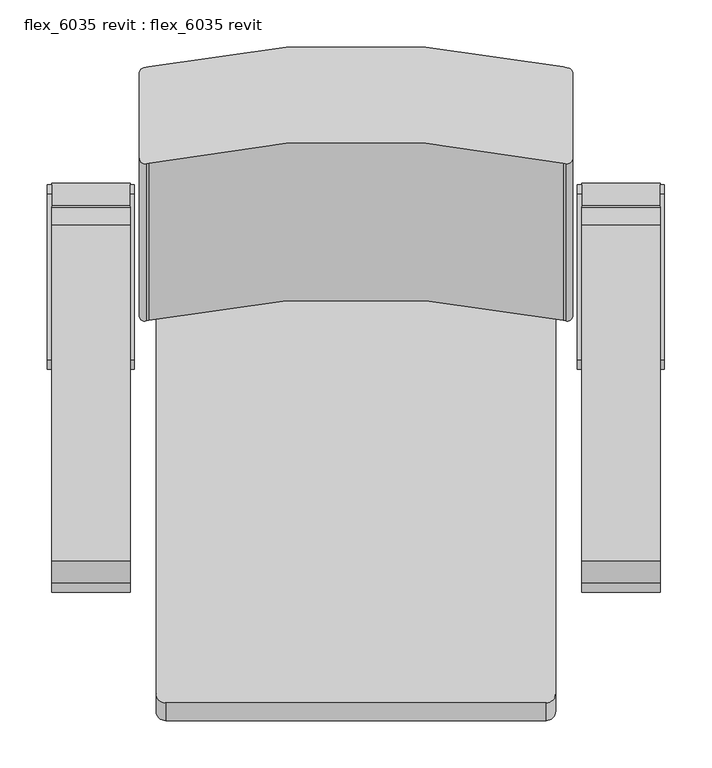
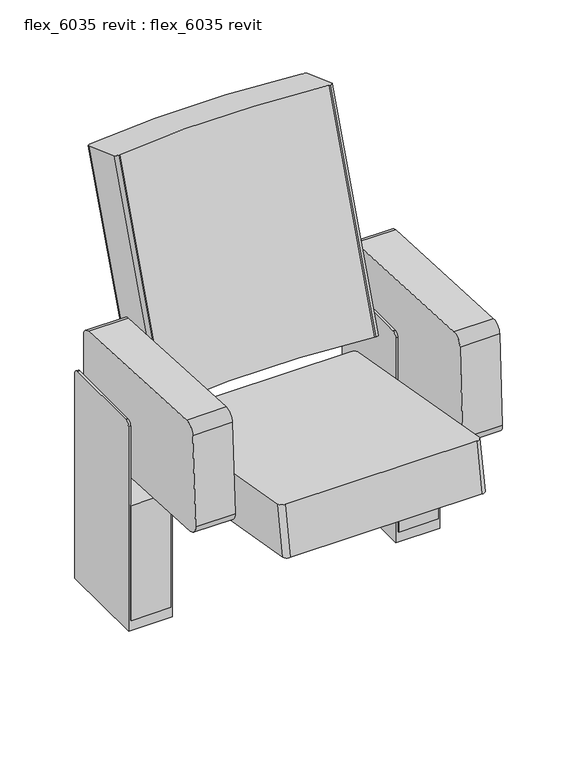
"""IFC4 building model written with IfcOpenShell, lengths in millimetres: furniture geometry, flex_6035 revit : flex_6035 revit."""

from ifc_helpers import new_model, si_unit, point, frame, frame_2d, origin, place, context, project, spatial, polyline, circle_curve, trimmed, segment, composite_curve, outline, extrude, source, transform, mapped, element, save
from ifc_brep_helpers import plane_surface, cylinder_surface, advanced_brep


def flex_6035_revit_flex_6035_revit_dbd431f0(model_context):
    return source(origin(), model_context, "Body", "SolidModel", [
        extrude(outline(polyline([(-238.5, -2.5), (-321.5, -2.5), (-321.5, 196.5), (-238.5, 196.5), (-238.5, -2.5)])), frame((0.0, 0.0, 24.0), z_axis=(0.0, 0.0, 1.0), x_axis=(1.0, 0.0, 0.0)), (0.0, 0.0, 1.0), 255.0),
        extrude(outline(polyline([(321.5, -2.5), (238.5, -2.5), (238.5, 196.5), (321.5, 196.5), (321.5, -2.5)])), frame((0.0, 0.0, 24.0), z_axis=(0.0, 0.0, 1.0), x_axis=(1.0, 0.0, 0.0)), (0.0, 0.0, 1.0), 255.0),
        advanced_brep(
        [(326.0, 10.0, 464.0), (326.0, 0.0, 454.0), (326.0, 0.0, 0.0), (326.0, 194.5, 0.0), (326.0, 194.5, 454.0), (326.0, 184.5, 464.0), (234.0, 10.0, 464.0), (234.0, 184.5, 464.0), (234.0, 194.5, 454.0), (234.0, 194.5, 0.0), (234.0, 0.0, 0.0), (234.0, 0.0, 454.0), (321.5, 184.5, 464.0), (321.5, 10.0, 464.0), (238.5, 10.0, 464.0), (238.5, 184.5, 464.0), (321.5, 194.5, 454.0), (238.5, 194.5, 454.0), (238.5, 194.5, 24.0), (321.5, 194.5, 24.0), (321.5, 0.0, 454.0), (321.5, 0.0, 24.0), (238.5, 0.0, 24.0), (238.5, 0.0, 454.0)],
        [
            (0, 1, circle_curve(frame((326.0, 10.0, 454.0), z_axis=(1.0, 0.0, 0.0), x_axis=(0.0, -1.0, 0.0)), 10.0)),
            (1, 2),
            (2, 3),
            (3, 4),
            (4, 5, circle_curve(frame((326.0, 184.5, 454.0), z_axis=(1.0, 0.0, 0.0), x_axis=(0.0, -1.0, 0.0)), 10.0)),
            (5, 0),
            (6, 7),
            (7, 8, circle_curve(frame((234.0, 184.5, 454.0), z_axis=(-1.0, 0.0, 0.0), x_axis=(0.0, -1.0, 0.0)), 10.0)),
            (8, 9),
            (9, 10),
            (10, 11),
            (11, 6, circle_curve(frame((234.0, 10.0, 454.0), z_axis=(-1.0, 0.0, 0.0), x_axis=(0.0, -1.0, 0.0)), 10.0)),
            (5, 12),
            (12, 13),
            (13, 0),
            (6, 14),
            (14, 15),
            (15, 7),
            (4, 16),
            (16, 12, circle_curve(frame((321.5, 184.5, 454.0), z_axis=(1.0, 0.0, 0.0), x_axis=(0.0, -1.0, 0.0)), 10.0)),
            (15, 17, circle_curve(frame((238.5, 184.5, 454.0), z_axis=(-1.0, 0.0, 0.0), x_axis=(0.0, -1.0, 0.0)), 10.0)),
            (17, 8),
            (3, 9),
            (17, 18),
            (18, 19),
            (19, 16),
            (2, 10),
            (1, 20),
            (20, 21),
            (21, 22),
            (22, 23),
            (23, 11),
            (13, 20, circle_curve(frame((321.5, 10.0, 454.0), z_axis=(1.0, 0.0, 0.0), x_axis=(0.0, -1.0, 0.0)), 10.0)),
            (23, 14, circle_curve(frame((238.5, 10.0, 454.0), z_axis=(-1.0, 0.0, 0.0), x_axis=(0.0, -1.0, 0.0)), 10.0)),
            (22, 18),
            (21, 19),
        ],
        [
            plane_surface(frame((326.0, 189.5, 464.0), z_axis=(1.0, 0.0, 0.0), x_axis=(0.0, -1.0, 0.0))),
            plane_surface(frame((234.0, 189.5, 464.0), z_axis=(-1.0, 0.0, 0.0), x_axis=(0.0, 1.0, 0.0))),
            plane_surface(frame((234.0, 10.0, 464.0), z_axis=(0.0, 0.0, 1.0), x_axis=(1.0, 0.0, 0.0))),
            cylinder_surface(frame((326.0, 184.5, 454.0), z_axis=(-1.0, 0.0, 0.0), x_axis=(0.0, -1.0, 0.0)), 10.0),
            plane_surface(frame((234.0, 194.5, 454.0), z_axis=(0.0, 1.0, 0.0), x_axis=(1.0, 0.0, 0.0))),
            plane_surface(frame((234.0, 194.5, 0.0), z_axis=(0.0, 0.0, -1.0), x_axis=(1.0, 0.0, 0.0))),
            plane_surface(frame((234.0, 0.0, 0.0), z_axis=(0.0, -1.0, 0.0), x_axis=(1.0, 0.0, 0.0))),
            cylinder_surface(frame((326.0, 10.0, 454.0), z_axis=(-1.0, 0.0, 0.0), x_axis=(0.0, -1.0, 0.0)), 10.0),
            plane_surface(frame((238.5, -99.040512, 484.0), z_axis=(1.0, 0.0, 0.0), x_axis=(0.0, 1.0, 0.0))),
            plane_surface(frame((238.5, -99.040512, 24.0), z_axis=(0.0, 0.0, 1.0), x_axis=(0.0, 1.0, 0.0))),
            plane_surface(frame((321.5, -99.040512, 24.0), z_axis=(-1.0, 0.0, 0.0), x_axis=(0.0, 1.0, 0.0))),
        ],
        [
            (0, [[1, 2, 3, 4, 5, 6]]),
            (1, [[7, 8, 9, 10, 11, 12]]),
            (2, [[-6, 13, 14, 15]]),
            (2, [[-7, 16, 17, 18]]),
            (3, [[-5, 19, 20, -13]]),
            (3, [[-8, -18, 21, 22]]),
            (4, [[-4, 23, -9, -22, 24, 25, 26, -19]]),
            (5, [[-3, 27, -10, -23]]),
            (6, [[-2, 28, 29, 30, 31, 32, -11, -27]]),
            (7, [[-1, -15, 33, -28]]),
            (7, [[-12, -32, 34, -16]]),
            (8, [[35, -24, -21, -17, -34, -31]]),
            (9, [[-35, -30, 36, -25]]),
            (10, [[-36, -29, -33, -14, -20, -26]]),
        ],
    ),
        advanced_brep(
        [(-234.0, 10.0, 464.0), (-234.0, 0.0, 454.0), (-234.0, 0.0, 0.0), (-234.0, 194.5, 0.0), (-234.0, 194.5, 454.0), (-234.0, 184.5, 464.0), (-326.0, 10.0, 464.0), (-326.0, 184.5, 464.0), (-326.0, 194.5, 454.0), (-326.0, 194.5, 0.0), (-326.0, 0.0, 0.0), (-326.0, 0.0, 454.0), (-238.5, 184.5, 464.0), (-238.5, 10.0, 464.0), (-321.5, 10.0, 464.0), (-321.5, 184.5, 464.0), (-238.5, 194.5, 454.0), (-321.5, 194.5, 454.0), (-321.5, 194.5, 24.0), (-238.5, 194.5, 24.0), (-238.5, 0.0, 454.0), (-238.5, 0.0, 24.0), (-321.5, 0.0, 24.0), (-321.5, 0.0, 454.0)],
        [
            (0, 1, circle_curve(frame((-234.0, 10.0, 454.0), z_axis=(1.0, 0.0, 0.0), x_axis=(0.0, -1.0, 0.0)), 10.0)),
            (1, 2),
            (2, 3),
            (3, 4),
            (4, 5, circle_curve(frame((-234.0, 184.5, 454.0), z_axis=(1.0, 0.0, 0.0), x_axis=(0.0, -1.0, 0.0)), 10.0)),
            (5, 0),
            (6, 7),
            (7, 8, circle_curve(frame((-326.0, 184.5, 454.0), z_axis=(-1.0, 0.0, 0.0), x_axis=(0.0, -1.0, 0.0)), 10.0)),
            (8, 9),
            (9, 10),
            (10, 11),
            (11, 6, circle_curve(frame((-326.0, 10.0, 454.0), z_axis=(-1.0, 0.0, 0.0), x_axis=(0.0, -1.0, 0.0)), 10.0)),
            (5, 12),
            (12, 13),
            (13, 0),
            (6, 14),
            (14, 15),
            (15, 7),
            (4, 16),
            (16, 12, circle_curve(frame((-238.5, 184.5, 454.0), z_axis=(1.0, 0.0, 0.0), x_axis=(0.0, -1.0, 0.0)), 10.0)),
            (15, 17, circle_curve(frame((-321.5, 184.5, 454.0), z_axis=(-1.0, 0.0, 0.0), x_axis=(0.0, -1.0, 0.0)), 10.0)),
            (17, 8),
            (3, 9),
            (17, 18),
            (18, 19),
            (19, 16),
            (2, 10),
            (1, 20),
            (20, 21),
            (21, 22),
            (22, 23),
            (23, 11),
            (13, 20, circle_curve(frame((-238.5, 10.0, 454.0), z_axis=(1.0, 0.0, 0.0), x_axis=(0.0, -1.0, 0.0)), 10.0)),
            (23, 14, circle_curve(frame((-321.5, 10.0, 454.0), z_axis=(-1.0, 0.0, 0.0), x_axis=(0.0, -1.0, 0.0)), 10.0)),
            (22, 18),
            (21, 19),
        ],
        [
            plane_surface(frame((-234.0, 189.5, 464.0), z_axis=(1.0, 0.0, 0.0), x_axis=(0.0, -1.0, 0.0))),
            plane_surface(frame((-326.0, 189.5, 464.0), z_axis=(-1.0, 0.0, 0.0), x_axis=(0.0, 1.0, 0.0))),
            plane_surface(frame((-326.0, 10.0, 464.0), z_axis=(0.0, 0.0, 1.0), x_axis=(1.0, 0.0, 0.0))),
            cylinder_surface(frame((-234.0, 184.5, 454.0), z_axis=(-1.0, 0.0, 0.0), x_axis=(0.0, -1.0, 0.0)), 10.0),
            plane_surface(frame((-326.0, 194.5, 454.0), z_axis=(0.0, 1.0, 0.0), x_axis=(1.0, 0.0, 0.0))),
            plane_surface(frame((-326.0, 194.5, 0.0), z_axis=(0.0, 0.0, -1.0), x_axis=(1.0, 0.0, 0.0))),
            plane_surface(frame((-326.0, 0.0, 0.0), z_axis=(0.0, -1.0, 0.0), x_axis=(1.0, 0.0, 0.0))),
            cylinder_surface(frame((-234.0, 10.0, 454.0), z_axis=(-1.0, 0.0, 0.0), x_axis=(0.0, -1.0, 0.0)), 10.0),
            plane_surface(frame((-321.5, -99.040512, 484.0), z_axis=(1.0, 0.0, 0.0), x_axis=(0.0, 1.0, 0.0))),
            plane_surface(frame((-321.5, -99.040512, 24.0), z_axis=(0.0, 0.0, 1.0), x_axis=(0.0, 1.0, 0.0))),
            plane_surface(frame((-238.5, -99.040512, 24.0), z_axis=(-1.0, 0.0, 0.0), x_axis=(0.0, 1.0, 0.0))),
        ],
        [
            (0, [[1, 2, 3, 4, 5, 6]]),
            (1, [[7, 8, 9, 10, 11, 12]]),
            (2, [[-6, 13, 14, 15]]),
            (2, [[-7, 16, 17, 18]]),
            (3, [[-5, 19, 20, -13]]),
            (3, [[-8, -18, 21, 22]]),
            (4, [[-4, 23, -9, -22, 24, 25, 26, -19]]),
            (5, [[-3, 27, -10, -23]]),
            (6, [[-2, 28, 29, 30, 31, 32, -11, -27]]),
            (7, [[-1, -15, 33, -28]]),
            (7, [[-12, -32, 34, -16]]),
            (8, [[35, -24, -21, -17, -34, -31]]),
            (9, [[-35, -30, 36, -25]]),
            (10, [[-36, -29, -33, -14, -20, -26]]),
        ],
    ),
        extrude(outline(composite_curve([segment(polyline([(0.0, -12.0), (-95.7315564, -12.0)]), True, "CONTINUOUS"), segment(trimmed(circle_curve(frame_2d((-95.7315564, -6.0)), 6.0), [point((-95.7315564, -12.0))], [point((-101.5727996, -4.6289137))], False, "CARTESIAN"), True, "CONTINUOUS"), segment(polyline([(-101.5727996, -4.6289137), (-100.9557275, -2.0)]), True, "CONTINUOUS"), segment(trimmed(circle_curve(frame_2d((-1056.4372431, 217.0)), 980.2580918), [point((-100.9557275, -2.0))], [point((-100.9557275, 436.0))], True, "CARTESIAN"), True, "CONTINUOUS"), segment(polyline([(-100.9557275, 436.0), (-101.5653035, 438.6595367)]), True, "CONTINUOUS"), segment(trimmed(circle_curve(frame_2d((-95.7169569, 440.0)), 6.0), [point((-101.5653035, 438.6595367))], [point((-95.7169569, 446.0))], False, "CARTESIAN"), True, "CONTINUOUS"), segment(polyline([(-95.7169569, 446.0), (0.0295707, 446.0)]), True, "CONTINUOUS"), segment(trimmed(circle_curve(frame_2d((0.0295707, 440.0)), 6.0), [point((0.0295707, 446.0))], [point((5.8779174, 441.3404633))], False, "CARTESIAN"), True, "CONTINUOUS"), segment(polyline([(5.8779174, 441.3404633), (7.1019719, 436.0)]), True, "CONTINUOUS"), segment(trimmed(circle_curve(frame_2d((-948.3795436, 217.0)), 980.2580918), [point((7.1019719, 436.0))], [point((7.1019719, -2.0))], False, "CARTESIAN"), True, "CONTINUOUS"), segment(polyline([(7.1019719, -2.0), (5.8412433, -7.3710863)]), True, "CONTINUOUS"), segment(trimmed(circle_curve(frame_2d((0.0, -6.0)), 6.0), [point((5.8412433, -7.3710863))], [point((0.0, -12.0))], False, "CARTESIAN"), True, "CONTINUOUS")], self_intersect=False)), frame((217.0, 146.2253989, 395.8767632), z_axis=(0.0, 0.342020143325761, 0.9396926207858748), x_axis=(0.0, 0.9396926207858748, -0.342020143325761)), (0.0, 0.0, 1.0), 486.0892767),
        extrude(outline(composite_curve([segment(trimmed(circle_curve(frame_2d((0.0, -10.0)), 10.0), [point((10.0000001, -10.0))], [point((0.0, -20.0))], False, "CARTESIAN"), True, "CONTINUOUS"), segment(polyline([(0.0, -20.0), (-446.0, -20.0)]), True, "CONTINUOUS"), segment(trimmed(circle_curve(frame_2d((-446.0, -10.0)), 10.0), [point((-446.0, -20.0))], [point((-456.0, -10.0))], False, "CARTESIAN"), True, "CONTINUOUS"), segment(polyline([(-456.0, -10.0), (-456.0, 392.0)]), True, "CONTINUOUS"), segment(trimmed(circle_curve(frame_2d((-446.0, 392.0)), 10.0), [point((-456.0, 392.0))], [point((-446.0, 402.0))], False, "CARTESIAN"), True, "CONTINUOUS"), segment(polyline([(-446.0, 402.0), (0.0, 402.0)]), True, "CONTINUOUS"), segment(trimmed(circle_curve(frame_2d((0.0, 392.0)), 10.0), [point((0.0, 402.0))], [point((10.0000001, 392.0))], False, "CARTESIAN"), True, "CONTINUOUS"), segment(polyline([(10.0000001, 392.0), (10.0000001, -10.0)]), True, "CONTINUOUS")], self_intersect=False)), frame((-191.0, -361.5575898, 343.6215361), z_axis=(0.0, 0.1736481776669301, 0.9848077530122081), x_axis=(0.0, -0.9848077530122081, 0.1736481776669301)), (0.0, 0.0, 1.0), 107.8231806),
        extrude(outline(composite_curve([segment(polyline([(-235.8734949, 373.1714289), (-225.5955793, 569.2857408)]), True, "CONTINUOUS"), segment(trimmed(circle_curve(frame_2d((-204.0086526, 568.1544179)), 21.6165514), [point((-225.5955793, 569.2857408))], [point((-202.8773297, 589.7413446))], False, "CARTESIAN"), True, "CONTINUOUS"), segment(polyline([(-202.8773297, 589.7413446), (152.0140226, 571.1422769)]), True, "CONTINUOUS"), segment(trimmed(circle_curve(frame_2d((150.9673035, 551.1696862)), 20.0), [point((152.0140226, 571.1422769))], [point((170.9666775, 551.3279218))], False, "CARTESIAN"), True, "CONTINUOUS"), segment(polyline([(170.9666775, 551.3279218), (172.5360593, 352.9739495)]), True, "CONTINUOUS"), segment(trimmed(circle_curve(frame_2d((152.5366853, 352.8157139)), 20.0), [point((172.5360593, 352.9739495))], [point((151.4899662, 332.8431232))], False, "CARTESIAN"), True, "CONTINUOUS"), segment(polyline([(151.4899662, 332.8431232), (-216.9476233, 352.1521191)]), True, "CONTINUOUS"), segment(trimmed(circle_curve(frame_2d((-215.9009042, 372.1247098)), 20.0), [point((-216.9476233, 352.1521191))], [point((-235.8734949, 373.1714289))], False, "CARTESIAN"), True, "CONTINUOUS")], self_intersect=False)), frame((238.5, 0.0, 0.0), z_axis=(1.0, 0.0, 0.0), x_axis=(0.0, 1.0, 0.0)), (0.0, 0.0, 1.0), 83.0),
        extrude(outline(composite_curve([segment(polyline([(-235.8734949, 373.1714289), (-225.5955793, 569.2857408)]), True, "CONTINUOUS"), segment(trimmed(circle_curve(frame_2d((-204.0086526, 568.1544179)), 21.6165514), [point((-225.5955793, 569.2857408))], [point((-202.8773297, 589.7413446))], False, "CARTESIAN"), True, "CONTINUOUS"), segment(polyline([(-202.8773297, 589.7413446), (152.0140226, 571.1422769)]), True, "CONTINUOUS"), segment(trimmed(circle_curve(frame_2d((150.9673035, 551.1696862)), 20.0), [point((152.0140226, 571.1422769))], [point((170.9666775, 551.3279218))], False, "CARTESIAN"), True, "CONTINUOUS"), segment(polyline([(170.9666775, 551.3279218), (172.5360593, 352.9739495)]), True, "CONTINUOUS"), segment(trimmed(circle_curve(frame_2d((152.5366853, 352.8157139)), 20.0), [point((172.5360593, 352.9739495))], [point((151.4899662, 332.8431232))], False, "CARTESIAN"), True, "CONTINUOUS"), segment(polyline([(151.4899662, 332.8431232), (-216.9476233, 352.1521191)]), True, "CONTINUOUS"), segment(trimmed(circle_curve(frame_2d((-215.9009042, 372.1247098)), 20.0), [point((-216.9476233, 352.1521191))], [point((-235.8734949, 373.1714289))], False, "CARTESIAN"), True, "CONTINUOUS")], self_intersect=False)), frame((-321.5, 0.0, 0.0), z_axis=(1.0, 0.0, 0.0), x_axis=(0.0, 1.0, 0.0)), (0.0, 0.0, 1.0), 83.0),
    ])


if __name__ == "__main__":
    model = new_model("IFC4")
    model_context = context("Model", 3, world=origin())
    ifc_project = project(units=[si_unit("LENGTHUNIT", "METRE", prefix="MILLI")], contexts=[model_context])
    site = spatial("IfcSite", under=ifc_project)
    building = spatial("IfcBuilding", under=site)
    placement = place(None, origin())
    flex_6035_revit_flex_6035_revit_shape = flex_6035_revit_flex_6035_revit_dbd431f0(model_context)
    element("IfcFurniture", 1, ObjectType="flex_6035 revit : flex_6035 revit", at=placement, inside=building, context=model_context, shape_type="MappedRepresentation", body=[
        mapped(flex_6035_revit_flex_6035_revit_shape, transform((0.0, 0.0, 0.0), x_axis=(1.0, 0.0, 0.0), y_axis=(0.0, 1.0, 0.0), z_axis=(0.0, 0.0, 1.0))),
    ])
    save(model, "model.ifc")
